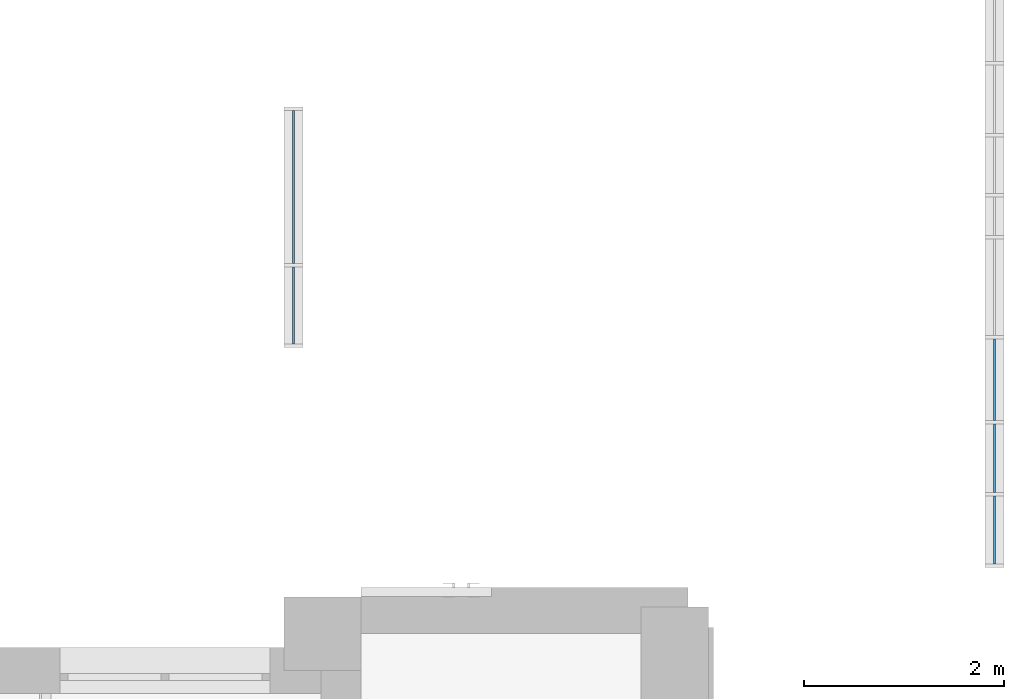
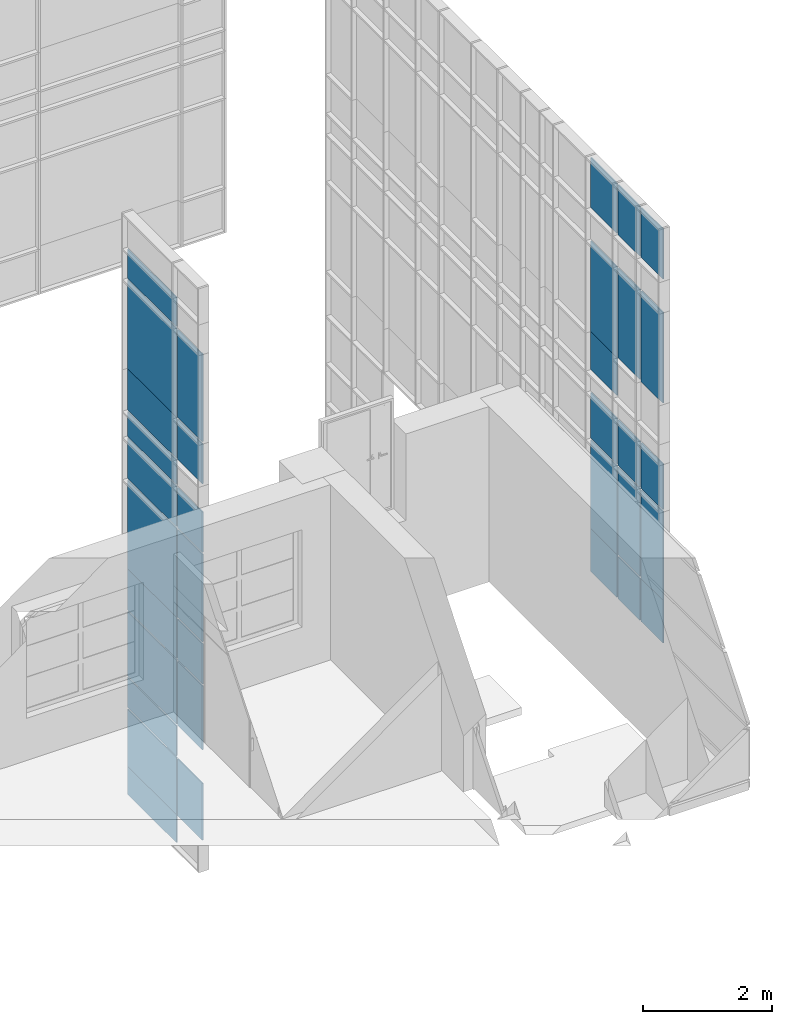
# One storey, part 32 of 73: 34 plates, 2 elements without a shape of their own.
"""IFC2X3 building model written with IfcOpenShell, lengths in millimetres."""

import ifcopenshell
import ifcopenshell.guid

model = None  # the IFC model being written
_history = None  # IfcOwnerHistory: only IFC2X3 demands one
_inside = {}  # id of a spatial element -> (the spatial element, [elements in it])
_under = {}  # id of a project, library or spatial element -> (it, [spatial elements below it])
_declared = {}  # id of a project -> (the project, [libraries it declares])
_typed = {}  # id of a type object -> (the type object, [elements of that type])
_made_of = {}  # id of a material, layer set ... -> (it, [elements and type objects made of it])


def new_model(schema):
    """Start an empty IFC model of exactly this schema.

    Asked for "IFC4X3", IfcOpenShell would pick the latest addendum, in which some entities
    have other attributes; the version numbers below select the first issue.
    IFC2X3 requires an IfcOwnerHistory on every rooted entity: one is made here for all.
    """
    global model, _history
    if schema == "IFC4X3":
        model = ifcopenshell.file(schema_version=(4, 3, 0, 0))
    else:
        model = ifcopenshell.file(schema=schema)
    _inside.clear()
    _under.clear()
    _declared.clear()
    _typed.clear()
    _made_of.clear()
    _history = None
    if model.schema == "IFC2X3":
        org = make("IfcOrganization", Name="unknown")
        user = make(
            "IfcPersonAndOrganization",
            ThePerson=make("IfcPerson", FamilyName="unknown"),
            TheOrganization=org,
        )
        app = make(
            "IfcApplication",
            ApplicationDeveloper=org,
            Version="unknown",
            ApplicationFullName="unknown",
            ApplicationIdentifier="unknown",
        )
        _history = make(
            "IfcOwnerHistory",
            OwningUser=user,
            OwningApplication=app,
            ChangeAction="ADDED",
            CreationDate=0,
        )
    return model


def make(cls, **values):
    """One entity of the class cls with the attributes given. An attribute that is None is left unset."""
    return model.create_entity(
        cls, **{name: value for name, value in values.items() if value is not None}
    )


def entity(cls, *values):
    """Any entity or typed value of the class cls, its attributes in the order of the schema. None: left unset."""
    e = model.create_entity(cls)
    for i, value in enumerate(values):
        if value is not None:
            e[i] = value
    return e


def rooted(cls, **values):
    """An entity with a GlobalId (a new one), such as an element, a storey or a relation."""
    return make(cls, GlobalId=ifcopenshell.guid.new(), OwnerHistory=_history, **values)


def si_unit(unit_type, name, prefix=None):
    """IfcSIUnit, for example si_unit("LENGTHUNIT", "METRE", prefix="MILLI")."""
    return make("IfcSIUnit", UnitType=unit_type, Prefix=prefix, Name=name)


def converted_unit(unit_type, name, factor, base, dimensions=None, offset=None):
    """IfcConversionBasedUnit, such as the inch: factor (a typed value) times the base unit."""
    return make(
        "IfcConversionBasedUnit"
        if offset is None
        else "IfcConversionBasedUnitWithOffset",
        ConversionOffset=offset,
        Dimensions=None
        if dimensions is None
        else entity("IfcDimensionalExponents", *dimensions),
        UnitType=unit_type,
        Name=name,
        ConversionFactor=make(
            "IfcMeasureWithUnit", ValueComponent=factor, UnitComponent=base
        ),
    )


def derived_unit(unit_type, elements):
    """IfcDerivedUnit: a product of units, each with its exponent."""
    return make(
        "IfcDerivedUnit",
        Elements=[
            make("IfcDerivedUnitElement", Unit=unit, Exponent=power)
            for unit, power in elements
        ],
        UnitType=unit_type,
    )


def assignment(units):
    """IfcUnitAssignment: the units of a project."""
    return None if units is None else make("IfcUnitAssignment", Units=units)


def point(xyz):
    """IfcCartesianPoint."""
    return None if xyz is None else make("IfcCartesianPoint", Coordinates=xyz)


def direction(xyz):
    """IfcDirection."""
    return None if xyz is None else make("IfcDirection", DirectionRatios=xyz)


def frame(location, z_axis=None, x_axis=None):
    """IfcAxis2Placement3D, a coordinate frame: its origin and axes. An axis left out is left unset."""
    return make(
        "IfcAxis2Placement3D",
        Location=point(location),
        Axis=direction(z_axis),
        RefDirection=direction(x_axis),
    )


def frame_2d(location, x_axis=None):
    """IfcAxis2Placement2D, a coordinate frame in the plane: its origin and x axis."""
    return make(
        "IfcAxis2Placement2D", Location=point(location), RefDirection=direction(x_axis)
    )


def origin():
    """The frame at (0, 0, 0) with its axes left unset."""
    return frame((0.0, 0.0, 0.0))


def origin_2d_with_axis():
    """The frame at (0, 0) in the plane with the x axis (1, 0) written out."""
    return frame_2d((0.0, 0.0), x_axis=(1.0, 0.0))


def place(relative_to, where):
    """IfcLocalPlacement: puts the frame where relative to a parent placement (None: the world)."""
    return make(
        "IfcLocalPlacement", PlacementRelTo=relative_to, RelativePlacement=where
    )


def context(
    kind, dimensions, precision=None, world=None, true_north=None, identifier=None
):
    """IfcGeometricRepresentationContext, for example the 3D "Model" context."""
    return make(
        "IfcGeometricRepresentationContext",
        ContextIdentifier=identifier,
        ContextType=kind,
        CoordinateSpaceDimension=dimensions,
        Precision=precision,
        WorldCoordinateSystem=world,
        TrueNorth=true_north,
    )


def subcontext(parent, identifier, kind, view, scale=None):
    """IfcGeometricRepresentationSubContext, for example "Body" below "Model"."""
    return make(
        "IfcGeometricRepresentationSubContext",
        ContextIdentifier=identifier,
        ContextType=kind,
        ParentContext=parent,
        TargetScale=scale,
        TargetView=view,
    )


def project(units=None, contexts=None):
    """IfcProject with its units and contexts."""
    return rooted(
        "IfcProject",
        Name="project",
        RepresentationContexts=contexts,
        UnitsInContext=assignment(units),
    )


def spatial(cls, under=None, at=None, **own):
    """A site, building, storey or space (cls), placed at a placement, below another one or the project."""
    s = rooted(cls, ObjectPlacement=at, **own)
    if under is not None:
        _under.setdefault(under.id(), (under, []))[1].append(s)
    return s


def profile(cls, at=None, kind="AREA", **sizes):
    """A parametric profile (cls). Its sizes go by their IFC names, for example OverallWidth=200.0."""
    return make(cls, ProfileType=kind, Position=at, **sizes)


def rectangle(**sizes):
    """IfcRectangleProfileDef."""
    return profile("IfcRectangleProfileDef", **sizes)


def extrude(swept, where, along, depth):
    """IfcExtrudedAreaSolid: the profile swept, set in the frame where, extruded along a direction by depth."""
    return make(
        "IfcExtrudedAreaSolid",
        SweptArea=swept,
        Position=where,
        ExtrudedDirection=direction(along),
        Depth=depth,
    )


def shape(context_of_items, identifier, shape_type, items):
    """IfcShapeRepresentation: the items that make up one representation, for example the "Body"."""
    return make(
        "IfcShapeRepresentation",
        ContextOfItems=context_of_items,
        RepresentationIdentifier=identifier,
        RepresentationType=shape_type,
        Items=items,
    )


def source(mapping_origin, context_of_items, identifier, shape_type, items):
    """IfcRepresentationMap: a shape defined once, which mapped items show again and again."""
    return make(
        "IfcRepresentationMap",
        MappingOrigin=mapping_origin,
        MappedRepresentation=shape(context_of_items, identifier, shape_type, items),
    )


def transform(
    local_origin,
    x_axis=None,
    y_axis=None,
    z_axis=None,
    scale=None,
    scale2=None,
    scale3=None,
    uniform=True,
):
    """IfcCartesianTransformationOperator3D, or its non-uniform kind. x_axis, y_axis, z_axis: its Axis1, 2, 3."""
    if uniform:
        return make(
            "IfcCartesianTransformationOperator3D",
            Axis1=direction(x_axis),
            Axis2=direction(y_axis),
            LocalOrigin=point(local_origin),
            Scale=scale,
            Axis3=direction(z_axis),
        )
    return make(
        "IfcCartesianTransformationOperator3DnonUniform",
        Axis1=direction(x_axis),
        Axis2=direction(y_axis),
        LocalOrigin=point(local_origin),
        Scale=scale,
        Axis3=direction(z_axis),
        Scale2=scale2,
        Scale3=scale3,
    )


def mapped(mapping_source, mapping_target):
    """IfcMappedItem: shows the shape of a source again, moved by a transform."""
    return make(
        "IfcMappedItem", MappingSource=mapping_source, MappingTarget=mapping_target
    )


def material(Name=None, Category=None):
    """IfcMaterial."""
    return make("IfcMaterial", Name=Name, Category=Category)


def layer(
    of_material, thickness, ventilated=None, Name=None, Category=None, Priority=None
):
    """IfcMaterialLayer: one layer of a wall or slab, of a material (None: an air gap)."""
    return make(
        "IfcMaterialLayer",
        Material=of_material,
        LayerThickness=thickness,
        IsVentilated=ventilated,
        Name=Name,
        Category=Category,
        Priority=Priority,
    )


def layer_set(layers, Name=None):
    """IfcMaterialLayerSet."""
    return make("IfcMaterialLayerSet", MaterialLayers=layers, LayerSetName=Name)


def layer_usage(for_layer_set, set_direction, sense, offset, extent=None):
    """IfcMaterialLayerSetUsage: how a layer set lies in its element."""
    return make(
        "IfcMaterialLayerSetUsage",
        ForLayerSet=for_layer_set,
        LayerSetDirection=set_direction,
        DirectionSense=sense,
        OffsetFromReferenceLine=offset,
        ReferenceExtent=extent,
    )


def made_of(thing, what):
    """Note that an element or type object is made of a material, layer set ...; save() writes the relation."""
    if what is not None:
        _made_of.setdefault(what.id(), (what, []))[1].append(thing)
    return thing


def type_object(cls, material=None, **own):
    """A type object (cls), such as IfcWallType, which elements share."""
    return made_of(rooted(cls, **own), material)


def type_shapes(of_type, sources):
    """Give a type object the sources (RepresentationMaps) that its elements show as mapped items."""
    of_type.RepresentationMaps = sources


def element(
    cls,
    number,
    at=None,
    inside=None,
    cuts=None,
    type_object=None,
    material=None,
    context=None,
    identifier="Body",
    shape_type=None,
    held_by="IfcProductDefinitionShape",
    body=None,
    shapes=None,
    **own,
):
    """One element of the class cls, such as IfcWall. Its Tag is "e" and its number.

    at: its placement. inside: the storey or other place that contains it. cuts: it is an
    opening in that element (IfcRelVoidsElement). A single representation is given by context,
    identifier, shape_type and body (its items); several are given by shapes. held_by: the class
    of the entity that holds the representations. save() writes the other relations.
    """
    e = rooted(cls, Tag="e%d" % number, ObjectPlacement=at, **own)
    if body is not None:
        shapes = [shape(context, identifier, shape_type, body)]
    if shapes is not None:
        e.Representation = make(held_by, Representations=shapes)
    if inside is not None:
        _inside.setdefault(inside.id(), (inside, []))[1].append(e)
    if cuts is not None:
        rooted(
            "IfcRelVoidsElement", RelatingBuildingElement=cuts, RelatedOpeningElement=e
        )
    if type_object is not None:
        _typed.setdefault(type_object.id(), (type_object, []))[1].append(e)
    return made_of(e, material)


def aggregate(whole, parts):
    """IfcRelAggregates: a whole, such as a stair, and the parts it consists of."""
    return rooted("IfcRelAggregates", RelatingObject=whole, RelatedObjects=parts)


def save(model, path):
    """Write the relations noted so far, then the file.

    IfcRelAggregates (storeys below a building ...), IfcRelContainedInSpatialStructure (elements
    in a storey), IfcRelDefinesByType, IfcRelAssociatesMaterial and IfcRelDeclares: one each for
    every whole, place, type object, material and project.
    """
    for whole, parts in _under.values():
        aggregate(whole, parts)
    for where, things in _inside.values():
        rooted(
            "IfcRelContainedInSpatialStructure",
            RelatedElements=things,
            RelatingStructure=where,
        )
    for kind, things in _typed.values():
        rooted("IfcRelDefinesByType", RelatedObjects=things, RelatingType=kind)
    for what, things in _made_of.values():
        rooted("IfcRelAssociatesMaterial", RelatedObjects=things, RelatingMaterial=what)
    for by, libraries in _declared.values():
        rooted("IfcRelDeclares", RelatingContext=by, RelatedDefinitions=libraries)
    model.write(path)


model = new_model("IFC2X3")

# Units and contexts
model_context = context("Model", 3, precision=0.01, world=origin(), true_north=direction((6.12303176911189e-17, 1.0)))
body_context = subcontext(model_context, "Body", "Model", "MODEL_VIEW")
ifc_project = project(units=[si_unit("LENGTHUNIT", "METRE", prefix="MILLI"), si_unit("AREAUNIT", "SQUARE_METRE"), si_unit("VOLUMEUNIT", "CUBIC_METRE"), converted_unit("PLANEANGLEUNIT", "DEGREE", entity("IfcRatioMeasure", 0.0174532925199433), si_unit("PLANEANGLEUNIT", "RADIAN"), dimensions=[0, 0, 0, 0, 0, 0, 0]), si_unit("MASSUNIT", "GRAM", prefix="KILO"), derived_unit("MASSDENSITYUNIT", [(si_unit("MASSUNIT", "GRAM", prefix="KILO"), 1), (si_unit("LENGTHUNIT", "METRE"), -3)]), si_unit("TIMEUNIT", "SECOND"), si_unit("FREQUENCYUNIT", "HERTZ"), si_unit("THERMODYNAMICTEMPERATUREUNIT", "DEGREE_CELSIUS"), derived_unit("THERMALTRANSMITTANCEUNIT", [(si_unit("MASSUNIT", "GRAM", prefix="KILO"), 1), (si_unit("THERMODYNAMICTEMPERATUREUNIT", "KELVIN"), -1), (si_unit("TIMEUNIT", "SECOND"), -3)]), derived_unit("VOLUMETRICFLOWRATEUNIT", [(si_unit("LENGTHUNIT", "METRE"), 3), (si_unit("TIMEUNIT", "SECOND"), -1)]), si_unit("ELECTRICCURRENTUNIT", "AMPERE"), si_unit("ELECTRICVOLTAGEUNIT", "VOLT"), si_unit("POWERUNIT", "WATT"), si_unit("FORCEUNIT", "NEWTON", prefix="KILO"), si_unit("ILLUMINANCEUNIT", "LUX"), si_unit("LUMINOUSFLUXUNIT", "LUMEN"), si_unit("LUMINOUSINTENSITYUNIT", "CANDELA"), derived_unit("USERDEFINED", [(si_unit("MASSUNIT", "GRAM", prefix="KILO"), -1), (si_unit("LENGTHUNIT", "METRE"), -2), (si_unit("TIMEUNIT", "SECOND"), 3), (si_unit("LUMINOUSFLUXUNIT", "LUMEN"), 1)]), derived_unit("LINEARVELOCITYUNIT", [(si_unit("LENGTHUNIT", "METRE"), 1), (si_unit("TIMEUNIT", "SECOND"), -1)]), si_unit("PRESSUREUNIT", "PASCAL"), derived_unit("USERDEFINED", [(si_unit("LENGTHUNIT", "METRE"), -2), (si_unit("MASSUNIT", "GRAM", prefix="KILO"), 1), (si_unit("TIMEUNIT", "SECOND"), -2)])], contexts=[model_context])

# Site, building, storey
site_placement = place(None, frame((-151.875543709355, 2715.0, 0.0)))
site = spatial("IfcSite", under=ifc_project, at=site_placement, Name="Surface", CompositionType="ELEMENT")
building_placement = place(site_placement, origin())
building = spatial("IfcBuilding", under=site, at=building_placement, CompositionType="ELEMENT")
storey_placement = place(building_placement, frame((0.0, 0.0, 6730.43000000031)))
storey = spatial("IfcBuildingStorey", under=building, at=storey_placement, Name="3 korrus", CompositionType="ELEMENT", Elevation=6730.43000000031)

# Curtain wall, plates
curtain_wall_type = type_object("IfcCurtainWallType", Name="Curtain Wall:Klaasfassaad", PredefinedType="NOTDEFINED")
curtain_wall_1_placement = place(storey_placement, frame((0.0, 0.0, -6730.43000000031)))
curtain_wall_1 = element("IfcCurtainWall", 1, at=curtain_wall_1_placement, inside=storey, type_object=curtain_wall_type, Name="Curtain Wall:Klaasfassaad", ObjectType="Curtain Wall:Klaasfassaad")
ifc_material = material(Name="<Unnamed>")
ifc_layer = layer(ifc_material, 20.0)
ifc_layer_set = layer_set([ifc_layer], Name="Curtain Wall:Klaassein KLS-01")
ifc_layer_usage_1 = layer_usage(ifc_layer_set, "AXIS3", "POSITIVE", 0.0)
plate_type_1 = type_object("IfcPlateType", Name="Glazed", PredefinedType="CURTAIN_PANEL", material=ifc_layer_set)
shared_shape_1 = source(origin(), body_context, "Body", "SweptSolid", [
    extrude(rectangle(XDim=20.0, YDim=677.500026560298, at=origin_2d_with_axis()), frame((0.0, 0.0, 0.0), z_axis=(0.0, 0.0, 1.0), x_axis=(0.0, 1.0, 0.0)), (0.0, 0.0, 1.0), 815.159729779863),
])
type_shapes(plate_type_1, [shared_shape_1])
plate_1_placement = place(curtain_wall_1_placement, frame((38701.6162681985, 13784.2504432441, 3909.42773967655), z_axis=(0.0, 0.0, 1.0), x_axis=(0.0, 1.0, 0.0)))
plate_1 = element("IfcPlate", 2, at=plate_1_placement, type_object=plate_type_1, material=ifc_layer_usage_1, Name="System Panel:Glazed", ObjectType="Glazed", context=body_context, shape_type="MappedRepresentation", body=[
    mapped(shared_shape_1, transform((0.0, 0.0, 0.0), scale=1.0)),
])
ifc_layer_usage_2 = layer_usage(ifc_layer_set, "AXIS3", "POSITIVE", 0.0)
plate_type_2 = type_object("IfcPlateType", Name="Glazed", PredefinedType="CURTAIN_PANEL", material=ifc_layer_set)
shared_shape_2 = source(origin(), body_context, "Body", "SweptSolid", [
    extrude(rectangle(XDim=20.0, YDim=684.999999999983, at=origin_2d_with_axis()), frame((0.0, 0.0, 0.0), z_axis=(0.0, 0.0, 1.0), x_axis=(0.0, 1.0, 0.0)), (0.0, 0.0, 1.0), 797.659729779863),
])
type_shapes(plate_type_2, [shared_shape_2])
plate_2_placement = place(curtain_wall_1_placement, frame((38701.6162681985, 14500.5004565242, 3909.42773967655), z_axis=(0.0, 0.0, 1.0), x_axis=(0.0, 1.0, 0.0)))
plate_2 = element("IfcPlate", 3, at=plate_2_placement, type_object=plate_type_2, material=ifc_layer_usage_2, Name="System Panel:Glazed", ObjectType="Glazed", context=body_context, shape_type="MappedRepresentation", body=[
    mapped(shared_shape_2, transform((0.0, 0.0, 0.0), scale=1.0)),
])
ifc_layer_usage_3 = layer_usage(ifc_layer_set, "AXIS3", "POSITIVE", 0.0)
plate_type_3 = type_object("IfcPlateType", Name="Glazed", PredefinedType="CURTAIN_PANEL", material=ifc_layer_set)
shared_shape_3 = source(origin(), body_context, "Body", "SweptSolid", [
    extrude(rectangle(XDim=20.0, YDim=814.999999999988, at=origin_2d_with_axis()), frame((0.0, 0.0, 0.0), z_axis=(0.0, 0.0, 1.0), x_axis=(0.0, 1.0, 0.0)), (0.0, 0.0, 1.0), 815.159729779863),
])
type_shapes(plate_type_3, [shared_shape_3])
plate_3_placement = place(curtain_wall_1_placement, frame((38701.6162681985, 15285.5004565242, 3909.42773967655), z_axis=(0.0, 0.0, 1.0), x_axis=(0.0, 1.0, 0.0)))
plate_3 = element("IfcPlate", 4, at=plate_3_placement, type_object=plate_type_3, material=ifc_layer_usage_3, Name="System Panel:Glazed", ObjectType="Glazed", context=body_context, shape_type="MappedRepresentation", body=[
    mapped(shared_shape_3, transform((0.0, 0.0, 0.0), scale=1.0)),
])
ifc_layer_usage_4 = layer_usage(ifc_layer_set, "AXIS3", "POSITIVE", 0.0)
plate_type_4 = type_object("IfcPlateType", Name="Glazed", PredefinedType="CURTAIN_PANEL", material=ifc_layer_set)
shared_shape_4 = source(origin(), body_context, "Body", "SweptSolid", [
    extrude(rectangle(XDim=20.0, YDim=677.500026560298, at=origin_2d_with_axis()), frame((0.0, 0.0, 0.0), z_axis=(0.0, 0.0, 1.0), x_axis=(0.0, 1.0, 0.0)), (0.0, 0.0, 1.0), 1682.81945955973),
])
type_shapes(plate_type_4, [shared_shape_4])
plate_4_placement = place(curtain_wall_1_placement, frame((38701.6162681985, 13784.2504432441, 4724.58746945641), z_axis=(0.0, 0.0, 1.0), x_axis=(0.0, 1.0, 0.0)))
plate_4 = element("IfcPlate", 5, at=plate_4_placement, type_object=plate_type_4, material=ifc_layer_usage_4, Name="System Panel:Glazed", ObjectType="Glazed", context=body_context, shape_type="MappedRepresentation", body=[
    mapped(shared_shape_4, transform((0.0, 0.0, 0.0), scale=1.0)),
])
ifc_layer_usage_5 = layer_usage(ifc_layer_set, "AXIS3", "POSITIVE", 0.0)
plate_type_5 = type_object("IfcPlateType", Name="Glazed", PredefinedType="CURTAIN_PANEL", material=ifc_layer_set)
shared_shape_5 = source(origin(), body_context, "Body", "SweptSolid", [
    extrude(rectangle(XDim=20.0, YDim=684.999999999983, at=origin_2d_with_axis()), frame((0.0, 0.0, 0.0), z_axis=(0.0, 0.0, 1.0), x_axis=(0.0, 1.0, 0.0)), (0.0, 0.0, 1.0), 1665.31945955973),
])
type_shapes(plate_type_5, [shared_shape_5])
plate_5_placement = place(curtain_wall_1_placement, frame((38701.6162681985, 14500.5004565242, 4742.08746945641), z_axis=(0.0, 0.0, 1.0), x_axis=(0.0, 1.0, 0.0)))
plate_5 = element("IfcPlate", 6, at=plate_5_placement, type_object=plate_type_5, material=ifc_layer_usage_5, Name="System Panel:Glazed", ObjectType="Glazed", context=body_context, shape_type="MappedRepresentation", body=[
    mapped(shared_shape_5, transform((0.0, 0.0, 0.0), scale=1.0)),
])
ifc_layer_usage_6 = layer_usage(ifc_layer_set, "AXIS3", "POSITIVE", 0.0)
plate_type_6 = type_object("IfcPlateType", Name="Glazed", PredefinedType="CURTAIN_PANEL", material=ifc_layer_set)
shared_shape_6 = source(origin(), body_context, "Body", "SweptSolid", [
    extrude(rectangle(XDim=20.0, YDim=814.999999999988, at=origin_2d_with_axis()), frame((0.0, 0.0, 0.0), z_axis=(0.0, 0.0, 1.0), x_axis=(0.0, 1.0, 0.0)), (0.0, 0.0, 1.0), 1682.81945955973),
])
type_shapes(plate_type_6, [shared_shape_6])
plate_6_placement = place(curtain_wall_1_placement, frame((38701.6162681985, 15285.5004565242, 4724.58746945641), z_axis=(0.0, 0.0, 1.0), x_axis=(0.0, 1.0, 0.0)))
plate_6 = element("IfcPlate", 7, at=plate_6_placement, type_object=plate_type_6, material=ifc_layer_usage_6, Name="System Panel:Glazed", ObjectType="Glazed", context=body_context, shape_type="MappedRepresentation", body=[
    mapped(shared_shape_6, transform((0.0, 0.0, 0.0), scale=1.0)),
])
ifc_layer_usage_7 = layer_usage(ifc_layer_set, "AXIS3", "POSITIVE", 0.0)
plate_type_7 = type_object("IfcPlateType", Name="Glazed", PredefinedType="CURTAIN_PANEL", material=ifc_layer_set)
shared_shape_7 = source(origin(), body_context, "Body", "SweptSolid", [
    extrude(rectangle(XDim=20.0, YDim=677.500026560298, at=origin_2d_with_axis()), frame((0.0, 0.0, 0.0), z_axis=(0.0, 0.0, 1.0), x_axis=(0.0, 1.0, 0.0)), (0.0, 0.0, 1.0), 865.000000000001),
])
type_shapes(plate_type_7, [shared_shape_7])
plate_7_placement = place(curtain_wall_1_placement, frame((38701.6162681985, 13784.2504432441, 6442.40692901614), z_axis=(0.0, 0.0, 1.0), x_axis=(0.0, 1.0, 0.0)))
plate_7 = element("IfcPlate", 8, at=plate_7_placement, type_object=plate_type_7, material=ifc_layer_usage_7, Name="System Panel:Glazed", ObjectType="Glazed", context=body_context, shape_type="MappedRepresentation", body=[
    mapped(shared_shape_7, transform((0.0, 0.0, 0.0), scale=1.0)),
])
ifc_layer_usage_8 = layer_usage(ifc_layer_set, "AXIS3", "POSITIVE", 0.0)
plate_type_8 = type_object("IfcPlateType", Name="Glazed", PredefinedType="CURTAIN_PANEL", material=ifc_layer_set)
shared_shape_8 = source(origin(), body_context, "Body", "SweptSolid", [
    extrude(rectangle(XDim=20.0, YDim=684.999999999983, at=origin_2d_with_axis()), frame((0.0, 0.0, 0.0), z_axis=(0.0, 0.0, 1.0), x_axis=(0.0, 1.0, 0.0)), (0.0, 0.0, 1.0), 865.0),
])
type_shapes(plate_type_8, [shared_shape_8])
plate_8_placement = place(curtain_wall_1_placement, frame((38701.6162681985, 14500.5004565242, 6442.40692901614), z_axis=(0.0, 0.0, 1.0), x_axis=(0.0, 1.0, 0.0)))
plate_8 = element("IfcPlate", 9, at=plate_8_placement, type_object=plate_type_8, material=ifc_layer_usage_8, Name="System Panel:Glazed", ObjectType="Glazed", context=body_context, shape_type="MappedRepresentation", body=[
    mapped(shared_shape_8, transform((0.0, 0.0, 0.0), scale=1.0)),
])
ifc_layer_usage_9 = layer_usage(ifc_layer_set, "AXIS3", "POSITIVE", 0.0)
plate_type_9 = type_object("IfcPlateType", Name="Glazed", PredefinedType="CURTAIN_PANEL", material=ifc_layer_set)
shared_shape_9 = source(origin(), body_context, "Body", "SweptSolid", [
    extrude(rectangle(XDim=20.0, YDim=814.999999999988, at=origin_2d_with_axis()), frame((0.0, 0.0, 0.0), z_axis=(0.0, 0.0, 1.0), x_axis=(0.0, 1.0, 0.0)), (0.0, 0.0, 1.0), 865.0),
])
type_shapes(plate_type_9, [shared_shape_9])
plate_9_placement = place(curtain_wall_1_placement, frame((38701.6162681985, 15285.5004565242, 6442.40692901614), z_axis=(0.0, 0.0, 1.0), x_axis=(0.0, 1.0, 0.0)))
plate_9 = element("IfcPlate", 10, at=plate_9_placement, type_object=plate_type_9, material=ifc_layer_usage_9, Name="System Panel:Glazed", ObjectType="Glazed", context=body_context, shape_type="MappedRepresentation", body=[
    mapped(shared_shape_9, transform((0.0, 0.0, 0.0), scale=1.0)),
])
ifc_layer_usage_10 = layer_usage(ifc_layer_set, "AXIS3", "POSITIVE", 0.0)
plate_type_10 = type_object("IfcPlateType", Name="Glazed", PredefinedType="CURTAIN_PANEL", material=ifc_layer_set)
shared_shape_10 = source(origin(), body_context, "Body", "SweptSolid", [
    extrude(rectangle(XDim=20.0, YDim=814.999999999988, at=origin_2d_with_axis()), frame((0.0, 0.0, 0.0), z_axis=(0.0, 0.0, 1.0), x_axis=(0.0, 1.0, 0.0)), (0.0, 0.0, 1.0), 722.5),
])
type_shapes(plate_type_10, [shared_shape_10])
plate_10_placement = place(curtain_wall_1_placement, frame((38701.6162681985, 15285.5004565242, 7742.40692901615), z_axis=(0.0, 0.0, 1.0), x_axis=(0.0, 1.0, 0.0)))
plate_10 = element("IfcPlate", 11, at=plate_10_placement, type_object=plate_type_10, material=ifc_layer_usage_10, Name="System Panel:Glazed", ObjectType="Glazed", context=body_context, shape_type="MappedRepresentation", body=[
    mapped(shared_shape_10, transform((0.0, 0.0, 0.0), scale=1.0)),
])
ifc_layer_usage_11 = layer_usage(ifc_layer_set, "AXIS3", "POSITIVE", 0.0)
plate_type_11 = type_object("IfcPlateType", Name="Glazed", PredefinedType="CURTAIN_PANEL", material=ifc_layer_set)
shared_shape_11 = source(origin(), body_context, "Body", "SweptSolid", [
    extrude(rectangle(XDim=20.0, YDim=677.500026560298, at=origin_2d_with_axis()), frame((0.0, 0.0, 0.0), z_axis=(0.0, 0.0, 1.0), x_axis=(0.0, 1.0, 0.0)), (0.0, 0.0, 1.0), 1722.5),
])
type_shapes(plate_type_11, [shared_shape_11])
plate_11_placement = place(curtain_wall_1_placement, frame((38701.6162681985, 13784.2504432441, 8464.90692901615), z_axis=(0.0, 0.0, 1.0), x_axis=(0.0, 1.0, 0.0)))
plate_11 = element("IfcPlate", 12, at=plate_11_placement, type_object=plate_type_11, material=ifc_layer_usage_11, Name="System Panel:Glazed", ObjectType="Glazed", context=body_context, shape_type="MappedRepresentation", body=[
    mapped(shared_shape_11, transform((0.0, 0.0, 0.0), scale=1.0)),
])
ifc_layer_usage_12 = layer_usage(ifc_layer_set, "AXIS3", "POSITIVE", 0.0)
plate_type_12 = type_object("IfcPlateType", Name="Glazed", PredefinedType="CURTAIN_PANEL", material=ifc_layer_set)
shared_shape_12 = source(origin(), body_context, "Body", "SweptSolid", [
    extrude(rectangle(XDim=20.0, YDim=684.999999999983, at=origin_2d_with_axis()), frame((0.0, 0.0, 0.0), z_axis=(0.0, 0.0, 1.0), x_axis=(0.0, 1.0, 0.0)), (0.0, 0.0, 1.0), 1705.0),
])
type_shapes(plate_type_12, [shared_shape_12])
plate_12_placement = place(curtain_wall_1_placement, frame((38701.6162681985, 14500.5004565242, 8482.40692901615), z_axis=(0.0, 0.0, 1.0), x_axis=(0.0, 1.0, 0.0)))
plate_12 = element("IfcPlate", 13, at=plate_12_placement, type_object=plate_type_12, material=ifc_layer_usage_12, Name="System Panel:Glazed", ObjectType="Glazed", context=body_context, shape_type="MappedRepresentation", body=[
    mapped(shared_shape_12, transform((0.0, 0.0, 0.0), scale=1.0)),
])
ifc_layer_usage_13 = layer_usage(ifc_layer_set, "AXIS3", "POSITIVE", 0.0)
plate_type_13 = type_object("IfcPlateType", Name="Glazed", PredefinedType="CURTAIN_PANEL", material=ifc_layer_set)
shared_shape_13 = source(origin(), body_context, "Body", "SweptSolid", [
    extrude(rectangle(XDim=20.0, YDim=814.999999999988, at=origin_2d_with_axis()), frame((0.0, 0.0, 0.0), z_axis=(0.0, 0.0, 1.0), x_axis=(0.0, 1.0, 0.0)), (0.0, 0.0, 1.0), 1722.5),
])
type_shapes(plate_type_13, [shared_shape_13])
plate_13_placement = place(curtain_wall_1_placement, frame((38701.6162681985, 15285.5004565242, 8464.90692901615), z_axis=(0.0, 0.0, 1.0), x_axis=(0.0, 1.0, 0.0)))
plate_13 = element("IfcPlate", 14, at=plate_13_placement, type_object=plate_type_13, material=ifc_layer_usage_13, Name="System Panel:Glazed", ObjectType="Glazed", context=body_context, shape_type="MappedRepresentation", body=[
    mapped(shared_shape_13, transform((0.0, 0.0, 0.0), scale=1.0)),
])
ifc_layer_usage_14 = layer_usage(ifc_layer_set, "AXIS3", "POSITIVE", 0.0)
plate_type_14 = type_object("IfcPlateType", Name="Glazed", PredefinedType="CURTAIN_PANEL", material=ifc_layer_set)
shared_shape_14 = source(origin(), body_context, "Body", "SweptSolid", [
    extrude(rectangle(XDim=20.0, YDim=677.500026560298, at=origin_2d_with_axis()), frame((0.0, 0.0, 0.0), z_axis=(0.0, 0.0, 1.0), x_axis=(0.0, 1.0, 0.0)), (0.0, 0.0, 1.0), 947.500000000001),
])
type_shapes(plate_type_14, [shared_shape_14])
plate_14_placement = place(curtain_wall_1_placement, frame((38701.6162681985, 13784.2504432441, 10822.4069290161), z_axis=(0.0, 0.0, 1.0), x_axis=(0.0, 1.0, 0.0)))
plate_14 = element("IfcPlate", 15, at=plate_14_placement, type_object=plate_type_14, material=ifc_layer_usage_14, Name="System Panel:Glazed", ObjectType="Glazed", context=body_context, shape_type="MappedRepresentation", body=[
    mapped(shared_shape_14, transform((0.0, 0.0, 0.0), scale=1.0)),
])
ifc_layer_usage_15 = layer_usage(ifc_layer_set, "AXIS3", "POSITIVE", 0.0)
plate_type_15 = type_object("IfcPlateType", Name="Glazed", PredefinedType="CURTAIN_PANEL", material=ifc_layer_set)
shared_shape_15 = source(origin(), body_context, "Body", "SweptSolid", [
    extrude(rectangle(XDim=20.0, YDim=684.999999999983, at=origin_2d_with_axis()), frame((0.0, 0.0, 0.0), z_axis=(0.0, 0.0, 1.0), x_axis=(0.0, 1.0, 0.0)), (0.0, 0.0, 1.0), 947.500000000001),
])
type_shapes(plate_type_15, [shared_shape_15])
plate_15_placement = place(curtain_wall_1_placement, frame((38701.6162681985, 14500.5004565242, 10822.4069290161), z_axis=(0.0, 0.0, 1.0), x_axis=(0.0, 1.0, 0.0)))
plate_15 = element("IfcPlate", 16, at=plate_15_placement, type_object=plate_type_15, material=ifc_layer_usage_15, Name="System Panel:Glazed", ObjectType="Glazed", context=body_context, shape_type="MappedRepresentation", body=[
    mapped(shared_shape_15, transform((0.0, 0.0, 0.0), scale=1.0)),
])
ifc_layer_usage_16 = layer_usage(ifc_layer_set, "AXIS3", "POSITIVE", 0.0)
plate_type_16 = type_object("IfcPlateType", Name="Glazed", PredefinedType="CURTAIN_PANEL", material=ifc_layer_set)
shared_shape_16 = source(origin(), body_context, "Body", "SweptSolid", [
    extrude(rectangle(XDim=20.0, YDim=814.999999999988, at=origin_2d_with_axis()), frame((0.0, 0.0, 0.0), z_axis=(0.0, 0.0, 1.0), x_axis=(0.0, 1.0, 0.0)), (0.0, 0.0, 1.0), 947.500000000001),
])
type_shapes(plate_type_16, [shared_shape_16])
plate_16_placement = place(curtain_wall_1_placement, frame((38701.6162681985, 15285.5004565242, 10822.4069290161), z_axis=(0.0, 0.0, 1.0), x_axis=(0.0, 1.0, 0.0)))
plate_16 = element("IfcPlate", 17, at=plate_16_placement, type_object=plate_type_16, material=ifc_layer_usage_16, Name="System Panel:Glazed", ObjectType="Glazed", context=body_context, shape_type="MappedRepresentation", body=[
    mapped(shared_shape_16, transform((0.0, 0.0, 0.0), scale=1.0)),
])
aggregate(curtain_wall_1, [plate_1, plate_2, plate_3, plate_4, plate_5, plate_6, plate_7, plate_8, plate_9, plate_10, plate_11, plate_12, plate_13, plate_14, plate_15, plate_16])

curtain_wall_2_placement = place(storey_placement, frame((0.0, 0.0, -6730.43000000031)))
curtain_wall_2 = element("IfcCurtainWall", 18, at=curtain_wall_2_placement, inside=storey, type_object=curtain_wall_type, Name="Curtain Wall:Klaasfassaad", ObjectType="Curtain Wall:Klaasfassaad")
ifc_layer_usage_17 = layer_usage(ifc_layer_set, "AXIS3", "POSITIVE", 0.0)
plate_type_17 = type_object("IfcPlateType", Name="Glazed", PredefinedType="CURTAIN_PANEL", material=ifc_layer_set)
shared_shape_17 = source(origin(), body_context, "Body", "SweptSolid", [
    extrude(rectangle(XDim=20.0, YDim=1527.50000000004, at=origin_2d_with_axis()), frame((0.0, 0.0, 0.0), z_axis=(0.0, 0.0, 1.0), x_axis=(0.0, 1.0, 0.0)), (0.0, 0.0, 1.0), 533.724873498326),
])
type_shapes(plate_type_17, [shared_shape_17])
plate_17_placement = place(curtain_wall_2_placement, frame((31697.6162682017, 17211.2042610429, 750.0), z_axis=(0.0, 0.0, 1.0), x_axis=(0.0, -1.0, 0.0)))
plate_17 = element("IfcPlate", 19, at=plate_17_placement, type_object=plate_type_17, material=ifc_layer_usage_17, Name="System Panel:Glazed", ObjectType="Glazed", context=body_context, shape_type="MappedRepresentation", body=[
    mapped(shared_shape_17, transform((0.0, 0.0, 0.0), scale=1.0)),
])
ifc_layer_usage_18 = layer_usage(ifc_layer_set, "AXIS3", "POSITIVE", 0.0)
plate_type_18 = type_object("IfcPlateType", Name="Glazed", PredefinedType="CURTAIN_PANEL", material=ifc_layer_set)
shared_shape_18 = source(origin(), body_context, "Body", "SweptSolid", [
    extrude(rectangle(XDim=20.0, YDim=1527.50000000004, at=origin_2d_with_axis()), frame((0.0, 0.0, 0.0), z_axis=(0.0, 0.0, 1.0), x_axis=(0.0, 1.0, 0.0)), (0.0, 0.0, 1.0), 1080.7509742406),
])
type_shapes(plate_type_18, [shared_shape_18])
plate_18_placement = place(curtain_wall_2_placement, frame((31697.6162682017, 17211.2042610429, 1283.7248734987), z_axis=(0.0, 0.0, 1.0), x_axis=(0.0, -1.0, 0.0)))
plate_18 = element("IfcPlate", 20, at=plate_18_placement, type_object=plate_type_18, material=ifc_layer_usage_18, Name="System Panel:Glazed", ObjectType="Glazed", context=body_context, shape_type="MappedRepresentation", body=[
    mapped(shared_shape_18, transform((0.0, 0.0, 0.0), scale=1.0)),
])
ifc_layer_usage_19 = layer_usage(ifc_layer_set, "AXIS3", "POSITIVE", 0.0)
plate_type_19 = type_object("IfcPlateType", Name="Glazed", PredefinedType="CURTAIN_PANEL", material=ifc_layer_set)
shared_shape_19 = source(origin(), body_context, "Body", "SweptSolid", [
    extrude(rectangle(XDim=20.0, YDim=767.454261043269, at=origin_2d_with_axis()), frame((0.0, 0.0, 0.0), z_axis=(0.0, 0.0, 1.0), x_axis=(0.0, 1.0, 0.0)), (0.0, 0.0, 1.0), 1080.7509742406),
])
type_shapes(plate_type_19, [shared_shape_19])
plate_19_placement = place(curtain_wall_2_placement, frame((31697.6162682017, 16028.7271305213, 1283.7248734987), z_axis=(0.0, 0.0, 1.0), x_axis=(0.0, -1.0, 0.0)))
plate_19 = element("IfcPlate", 21, at=plate_19_placement, type_object=plate_type_19, material=ifc_layer_usage_19, Name="System Panel:Glazed", ObjectType="Glazed", context=body_context, shape_type="MappedRepresentation", body=[
    mapped(shared_shape_19, transform((0.0, 0.0, 0.0), scale=1.0)),
])
ifc_layer_usage_20 = layer_usage(ifc_layer_set, "AXIS3", "POSITIVE", 0.0)
plate_type_20 = type_object("IfcPlateType", Name="Glazed", PredefinedType="CURTAIN_PANEL", material=ifc_layer_set)
shared_shape_20 = source(origin(), body_context, "Body", "SweptSolid", [
    extrude(rectangle(XDim=20.0, YDim=1527.50000000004, at=origin_2d_with_axis()), frame((0.0, 0.0, 0.0), z_axis=(0.0, 0.0, 1.0), x_axis=(0.0, 1.0, 0.0)), (0.0, 0.0, 1.0), 566.749025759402),
])
type_shapes(plate_type_20, [shared_shape_20])
plate_20_placement = place(curtain_wall_2_placement, frame((31697.6162682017, 17211.2042610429, 2399.4758477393), z_axis=(0.0, 0.0, 1.0), x_axis=(0.0, -1.0, 0.0)))
plate_20 = element("IfcPlate", 22, at=plate_20_placement, type_object=plate_type_20, material=ifc_layer_usage_20, Name="System Panel:Glazed", ObjectType="Glazed", context=body_context, shape_type="MappedRepresentation", body=[
    mapped(shared_shape_20, transform((0.0, 0.0, 0.0), scale=1.0)),
])
ifc_layer_usage_21 = layer_usage(ifc_layer_set, "AXIS3", "POSITIVE", 0.0)
plate_type_21 = type_object("IfcPlateType", Name="Glazed", PredefinedType="CURTAIN_PANEL", material=ifc_layer_set)
shared_shape_21 = source(origin(), body_context, "Body", "SweptSolid", [
    extrude(rectangle(XDim=20.0, YDim=1527.50000000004, at=origin_2d_with_axis()), frame((0.0, 0.0, 0.0), z_axis=(0.0, 0.0, 1.0), x_axis=(0.0, 1.0, 0.0)), (0.0, 0.0, 1.0), 1215.0),
])
type_shapes(plate_type_21, [shared_shape_21])
plate_21_placement = place(curtain_wall_2_placement, frame((31697.6162682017, 17211.2042610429, 3001.2248734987), z_axis=(0.0, 0.0, 1.0), x_axis=(0.0, -1.0, 0.0)))
plate_21 = element("IfcPlate", 23, at=plate_21_placement, type_object=plate_type_21, material=ifc_layer_usage_21, Name="System Panel:Glazed", ObjectType="Glazed", context=body_context, shape_type="MappedRepresentation", body=[
    mapped(shared_shape_21, transform((0.0, 0.0, 0.0), scale=1.0)),
])
ifc_layer_usage_22 = layer_usage(ifc_layer_set, "AXIS3", "POSITIVE", 0.0)
plate_type_22 = type_object("IfcPlateType", Name="Glazed", PredefinedType="CURTAIN_PANEL", material=ifc_layer_set)
shared_shape_22 = source(origin(), body_context, "Body", "SweptSolid", [
    extrude(rectangle(XDim=20.0, YDim=767.454261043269, at=origin_2d_with_axis()), frame((0.0, 0.0, 0.0), z_axis=(0.0, 0.0, 1.0), x_axis=(0.0, 1.0, 0.0)), (0.0, 0.0, 1.0), 1215.0),
])
type_shapes(plate_type_22, [shared_shape_22])
plate_22_placement = place(curtain_wall_2_placement, frame((31697.6162682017, 16028.7271305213, 3001.2248734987), z_axis=(0.0, 0.0, 1.0), x_axis=(0.0, -1.0, 0.0)))
plate_22 = element("IfcPlate", 24, at=plate_22_placement, type_object=plate_type_22, material=ifc_layer_usage_22, Name="System Panel:Glazed", ObjectType="Glazed", context=body_context, shape_type="MappedRepresentation", body=[
    mapped(shared_shape_22, transform((0.0, 0.0, 0.0), scale=1.0)),
])
ifc_layer_usage_23 = layer_usage(ifc_layer_set, "AXIS3", "POSITIVE", 0.0)
plate_type_23 = type_object("IfcPlateType", Name="Glazed", PredefinedType="CURTAIN_PANEL", material=ifc_layer_set)
shared_shape_23 = source(origin(), body_context, "Body", "SweptSolid", [
    extrude(rectangle(XDim=20.0, YDim=1527.50000000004, at=origin_2d_with_axis()), frame((0.0, 0.0, 0.0), z_axis=(0.0, 0.0, 1.0), x_axis=(0.0, 1.0, 0.0)), (0.0, 0.0, 1.0), 782.5),
])
type_shapes(plate_type_23, [shared_shape_23])
plate_23_placement = place(curtain_wall_2_placement, frame((31697.6162682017, 17211.2042610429, 4251.2248734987), z_axis=(0.0, 0.0, 1.0), x_axis=(0.0, -1.0, 0.0)))
plate_23 = element("IfcPlate", 25, at=plate_23_placement, type_object=plate_type_23, material=ifc_layer_usage_23, Name="System Panel:Glazed", ObjectType="Glazed", context=body_context, shape_type="MappedRepresentation", body=[
    mapped(shared_shape_23, transform((0.0, 0.0, 0.0), scale=1.0)),
])
ifc_layer_usage_24 = layer_usage(ifc_layer_set, "AXIS3", "POSITIVE", 0.0)
plate_24_placement = place(curtain_wall_2_placement, frame((31697.6162682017, 17211.2042610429, 8051.2248734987), z_axis=(0.0, 0.0, 1.0), x_axis=(0.0, -1.0, 0.0)))
plate_24 = element("IfcPlate", 26, at=plate_24_placement, type_object=plate_type_23, material=ifc_layer_usage_24, Name="System Panel:Glazed", ObjectType="Glazed", context=body_context, shape_type="MappedRepresentation", body=[
    mapped(shared_shape_23, transform((0.0, 0.0, 0.0), scale=1.0)),
])
ifc_layer_usage_25 = layer_usage(ifc_layer_set, "AXIS3", "POSITIVE", 0.0)
plate_type_24 = type_object("IfcPlateType", Name="Glazed", PredefinedType="CURTAIN_PANEL", material=ifc_layer_set)
shared_shape_24 = source(origin(), body_context, "Body", "SweptSolid", [
    extrude(rectangle(XDim=20.0, YDim=767.454261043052, at=origin_2d_with_axis()), frame((0.0, 0.0, 0.0), z_axis=(0.0, 0.0, 1.0), x_axis=(0.0, 1.0, 0.0)), (0.0, 0.0, 1.0), 765.0),
])
type_shapes(plate_type_24, [shared_shape_24])
plate_25_placement = place(curtain_wall_2_placement, frame((31697.6162682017, 16028.7271305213, 4251.2248734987), z_axis=(0.0, 0.0, 1.0), x_axis=(0.0, -1.0, 0.0)))
plate_25 = element("IfcPlate", 27, at=plate_25_placement, type_object=plate_type_24, material=ifc_layer_usage_25, Name="System Panel:Glazed", ObjectType="Glazed", context=body_context, shape_type="MappedRepresentation", body=[
    mapped(shared_shape_24, transform((0.0, 0.0, 0.0), scale=1.0)),
])
ifc_layer_usage_26 = layer_usage(ifc_layer_set, "AXIS3", "POSITIVE", 0.0)
plate_26_placement = place(curtain_wall_2_placement, frame((31697.6162682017, 16028.7271305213, 6751.2248734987), z_axis=(0.0, 0.0, 1.0), x_axis=(0.0, -1.0, 0.0)))
plate_26 = element("IfcPlate", 28, at=plate_26_placement, type_object=plate_type_24, material=ifc_layer_usage_26, Name="System Panel:Glazed", ObjectType="Glazed", context=body_context, shape_type="MappedRepresentation", body=[
    mapped(shared_shape_24, transform((0.0, 0.0, 0.0), scale=1.0)),
])
ifc_layer_usage_27 = layer_usage(ifc_layer_set, "AXIS3", "POSITIVE", 0.0)
plate_27_placement = place(curtain_wall_2_placement, frame((31697.6162682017, 16028.7271305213, 8051.2248734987), z_axis=(0.0, 0.0, 1.0), x_axis=(0.0, -1.0, 0.0)))
plate_27 = element("IfcPlate", 29, at=plate_27_placement, type_object=plate_type_24, material=ifc_layer_usage_27, Name="System Panel:Glazed", ObjectType="Glazed", context=body_context, shape_type="MappedRepresentation", body=[
    mapped(shared_shape_24, transform((0.0, 0.0, 0.0), scale=1.0)),
])
ifc_layer_usage_28 = layer_usage(ifc_layer_set, "AXIS3", "POSITIVE", 0.0)
plate_type_25 = type_object("IfcPlateType", Name="Glazed", PredefinedType="CURTAIN_PANEL", material=ifc_layer_set)
shared_shape_25 = source(origin(), body_context, "Body", "SweptSolid", [
    extrude(rectangle(XDim=20.0, YDim=1527.50000000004, at=origin_2d_with_axis()), frame((0.0, 0.0, 0.0), z_axis=(0.0, 0.0, 1.0), x_axis=(0.0, 1.0, 0.0)), (0.0, 0.0, 1.0), 1682.5),
])
type_shapes(plate_type_25, [shared_shape_25])
plate_28_placement = place(curtain_wall_2_placement, frame((31697.6162682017, 17211.2042610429, 5033.7248734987), z_axis=(0.0, 0.0, 1.0), x_axis=(0.0, -1.0, 0.0)))
plate_28 = element("IfcPlate", 30, at=plate_28_placement, type_object=plate_type_25, material=ifc_layer_usage_28, Name="System Panel:Glazed", ObjectType="Glazed", context=body_context, shape_type="MappedRepresentation", body=[
    mapped(shared_shape_25, transform((0.0, 0.0, 0.0), scale=1.0)),
])
ifc_layer_usage_29 = layer_usage(ifc_layer_set, "AXIS3", "POSITIVE", 0.0)
plate_29_placement = place(curtain_wall_2_placement, frame((31697.6162682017, 17211.2042610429, 8833.7248734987), z_axis=(0.0, 0.0, 1.0), x_axis=(0.0, -1.0, 0.0)))
plate_29 = element("IfcPlate", 31, at=plate_29_placement, type_object=plate_type_25, material=ifc_layer_usage_29, Name="System Panel:Glazed", ObjectType="Glazed", context=body_context, shape_type="MappedRepresentation", body=[
    mapped(shared_shape_25, transform((0.0, 0.0, 0.0), scale=1.0)),
])
ifc_layer_usage_30 = layer_usage(ifc_layer_set, "AXIS3", "POSITIVE", 0.0)
plate_type_26 = type_object("IfcPlateType", Name="Glazed", PredefinedType="CURTAIN_PANEL", material=ifc_layer_set)
shared_shape_26 = source(origin(), body_context, "Body", "SweptSolid", [
    extrude(rectangle(XDim=20.0, YDim=767.454261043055, at=origin_2d_with_axis()), frame((0.0, 0.0, 0.0), z_axis=(0.0, 0.0, 1.0), x_axis=(0.0, 1.0, 0.0)), (0.0, 0.0, 1.0), 1665.0),
])
type_shapes(plate_type_26, [shared_shape_26])
plate_30_placement = place(curtain_wall_2_placement, frame((31697.6162682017, 16028.7271305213, 5051.2248734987), z_axis=(0.0, 0.0, 1.0), x_axis=(0.0, -1.0, 0.0)))
plate_30 = element("IfcPlate", 32, at=plate_30_placement, type_object=plate_type_26, material=ifc_layer_usage_30, Name="System Panel:Glazed", ObjectType="Glazed", context=body_context, shape_type="MappedRepresentation", body=[
    mapped(shared_shape_26, transform((0.0, 0.0, 0.0), scale=1.0)),
])
ifc_layer_usage_31 = layer_usage(ifc_layer_set, "AXIS3", "POSITIVE", 0.0)
plate_31_placement = place(curtain_wall_2_placement, frame((31697.6162682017, 16028.7271305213, 8851.2248734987), z_axis=(0.0, 0.0, 1.0), x_axis=(0.0, -1.0, 0.0)))
plate_31 = element("IfcPlate", 33, at=plate_31_placement, type_object=plate_type_26, material=ifc_layer_usage_31, Name="System Panel:Glazed", ObjectType="Glazed", context=body_context, shape_type="MappedRepresentation", body=[
    mapped(shared_shape_26, transform((0.0, 0.0, 0.0), scale=1.0)),
])
ifc_layer_usage_32 = layer_usage(ifc_layer_set, "AXIS3", "POSITIVE", 0.0)
plate_type_27 = type_object("IfcPlateType", Name="Glazed", PredefinedType="CURTAIN_PANEL", material=ifc_layer_set)
shared_shape_27 = source(origin(), body_context, "Body", "SweptSolid", [
    extrude(rectangle(XDim=20.0, YDim=1527.50000000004, at=origin_2d_with_axis()), frame((0.0, 0.0, 0.0), z_axis=(0.0, 0.0, 1.0), x_axis=(0.0, 1.0, 0.0)), (0.0, 0.0, 1.0), 764.999999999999),
])
type_shapes(plate_type_27, [shared_shape_27])
plate_32_placement = place(curtain_wall_2_placement, frame((31697.6162682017, 17211.2042610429, 6751.2248734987), z_axis=(0.0, 0.0, 1.0), x_axis=(0.0, -1.0, 0.0)))
plate_32 = element("IfcPlate", 34, at=plate_32_placement, type_object=plate_type_27, material=ifc_layer_usage_32, Name="System Panel:Glazed", ObjectType="Glazed", context=body_context, shape_type="MappedRepresentation", body=[
    mapped(shared_shape_27, transform((0.0, 0.0, 0.0), scale=1.0)),
])
ifc_layer_usage_33 = layer_usage(ifc_layer_set, "AXIS3", "POSITIVE", 0.0)
plate_type_28 = type_object("IfcPlateType", Name="Glazed", PredefinedType="CURTAIN_PANEL", material=ifc_layer_set)
shared_shape_28 = source(origin(), body_context, "Body", "SweptSolid", [
    extrude(rectangle(XDim=20.0, YDim=1527.50000000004, at=origin_2d_with_axis()), frame((0.0, 0.0, 0.0), z_axis=(0.0, 0.0, 1.0), x_axis=(0.0, 1.0, 0.0)), (0.0, 0.0, 1.0), 464.999999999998),
])
type_shapes(plate_type_28, [shared_shape_28])
plate_33_placement = place(curtain_wall_2_placement, frame((31697.6162682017, 17211.2042610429, 7551.2248734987), z_axis=(0.0, 0.0, 1.0), x_axis=(0.0, -1.0, 0.0)))
plate_33 = element("IfcPlate", 35, at=plate_33_placement, type_object=plate_type_28, material=ifc_layer_usage_33, Name="System Panel:Glazed", ObjectType="Glazed", context=body_context, shape_type="MappedRepresentation", body=[
    mapped(shared_shape_28, transform((0.0, 0.0, 0.0), scale=1.0)),
])
ifc_layer_usage_34 = layer_usage(ifc_layer_set, "AXIS3", "POSITIVE", 0.0)
plate_type_29 = type_object("IfcPlateType", Name="Glazed", PredefinedType="CURTAIN_PANEL", material=ifc_layer_set)
shared_shape_29 = source(origin(), body_context, "Body", "SweptSolid", [
    extrude(rectangle(XDim=20.0, YDim=1527.50000000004, at=origin_2d_with_axis()), frame((0.0, 0.0, 0.0), z_axis=(0.0, 0.0, 1.0), x_axis=(0.0, 1.0, 0.0)), (0.0, 0.0, 1.0), 550.000000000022),
])
type_shapes(plate_type_29, [shared_shape_29])
plate_34_placement = place(curtain_wall_2_placement, frame((31697.6162682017, 17211.2042610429, 10551.2248734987), z_axis=(0.0, 0.0, 1.0), x_axis=(0.0, -1.0, 0.0)))
plate_34 = element("IfcPlate", 36, at=plate_34_placement, type_object=plate_type_29, material=ifc_layer_usage_34, Name="System Panel:Glazed", ObjectType="Glazed", context=body_context, shape_type="MappedRepresentation", body=[
    mapped(shared_shape_29, transform((0.0, 0.0, 0.0), scale=1.0)),
])
aggregate(curtain_wall_2, [plate_17, plate_18, plate_19, plate_20, plate_21, plate_22, plate_23, plate_25, plate_28, plate_30, plate_32, plate_26, plate_33, plate_24, plate_27, plate_29, plate_31, plate_34])

save(model, "model.ifc")
